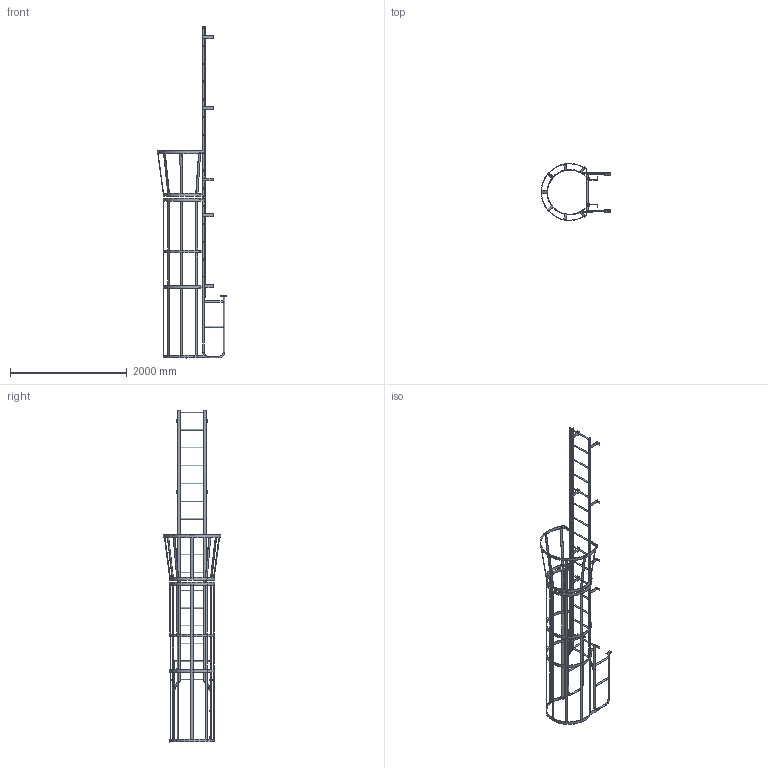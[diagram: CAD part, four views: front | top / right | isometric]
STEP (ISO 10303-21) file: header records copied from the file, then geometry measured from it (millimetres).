
FILE_DESCRIPTION(/* description */ (''),/* implementation_level */ '2;1');
FILE_NAME(/* name */ 'P:\MIKEL & KAREN\D0570196-02 F16WC SIMPLIFIED PART.stp',/* time_stamp */ '2018-07-03T08:14:56-04:00',/* author */ ('stephanie'),/* organization */ (''),/* preprocessor_version */ 'ST-DEVELOPER v16.1',/* originating_system */ 'Autodesk Inventor 2016',/* authorisation */ '');
FILE_SCHEMA (('AUTOMOTIVE_DESIGN { 1 0 10303 214 3 1 1 }'));
Length unit declared in the file: centimetre
Products named in the file (1): D0570196-02 F16WC SIMPLIFIED PART
Bounding box: 1195.62 x 977.88 x 5686.43 mm (x, y, z)
Volume: 17842145 mm3; surface area: 6998359.8 mm2
Topology: 23 solids, 24 shells, 736 faces, 2179 edges, 1412 vertices
Faces by surface type: plane 473, cylinder 231, cone 24, torus 8
Full cylindrical faces by diameter (mm): 10.319 x4, 12.7 x3, 14.287 x11, 16.193 x1, 19.05 x18, 22.098 x10, 22.225 x32, 25.4 x10
Entity records: 25060 total; most frequent: CARTESIAN_POINT 4599, ORIENTED_EDGE 4110, DIRECTION 4044, EDGE_CURVE 2021, VERTEX_POINT 1357, LINE 1356, VECTOR 1356, AXIS2_PLACEMENT_3D 1344
